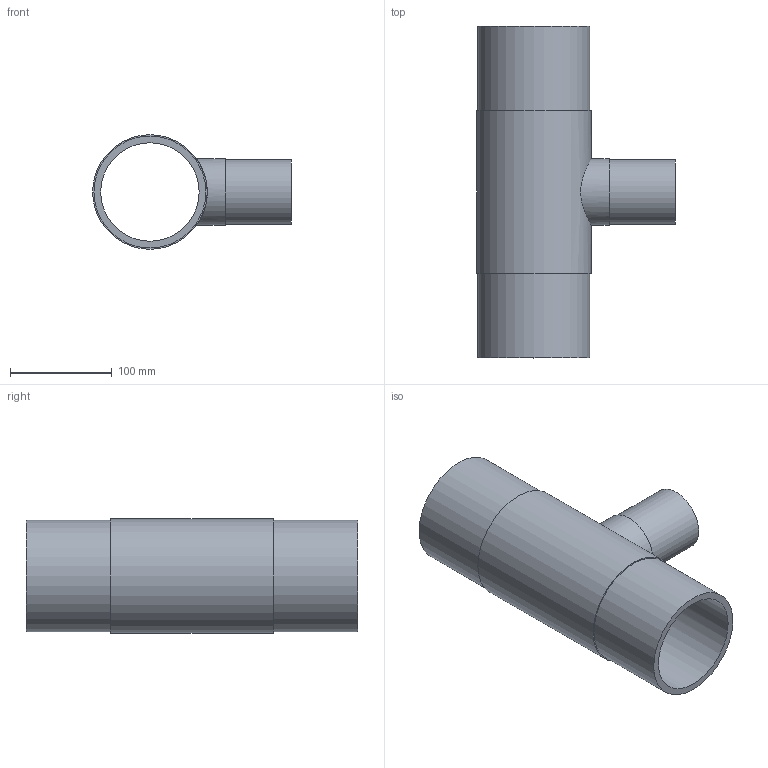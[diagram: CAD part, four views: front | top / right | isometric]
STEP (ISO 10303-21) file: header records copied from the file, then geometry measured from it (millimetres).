
FILE_DESCRIPTION(('Beschreibung'),'1');
FILE_NAME('V:/Ziel/25.20.01.063_red._SDR_17_PE100_110_063_110.STP', '2014-09-15T05:43:38',('Author'), ('Organization'), 'KCM Version 1.1.794.0', 'Kubotek KeyCreator', 'Authorization');
FILE_SCHEMA(('CONFIG_CONTROL_DESIGN'));
Length unit declared in the file: millimetre
Bounding box: 195.32 x 326 x 112.64 mm (x, y, z)
Volume: 851248.1 mm3; surface area: 246688.8 mm2
Topology: 1 solids, 1 shells, 13 faces, 40 edges, 47 vertices
Faces by surface type: cylinder 7, plane 6
Full cylindrical faces by diameter (mm): 51.4 x1, 63 x1, 65.32 x1, 96.8 x1, 110 x2, 112.64 x1
Entity records: 742 total; most frequent: CARTESIAN_POINT 319, DIRECTION 77, ORIENTED_EDGE 48, AXIS2_PLACEMENT_3D 28, EDGE_CURVE 24, VECTOR 21, LINE 21, EDGE_LOOP 21
